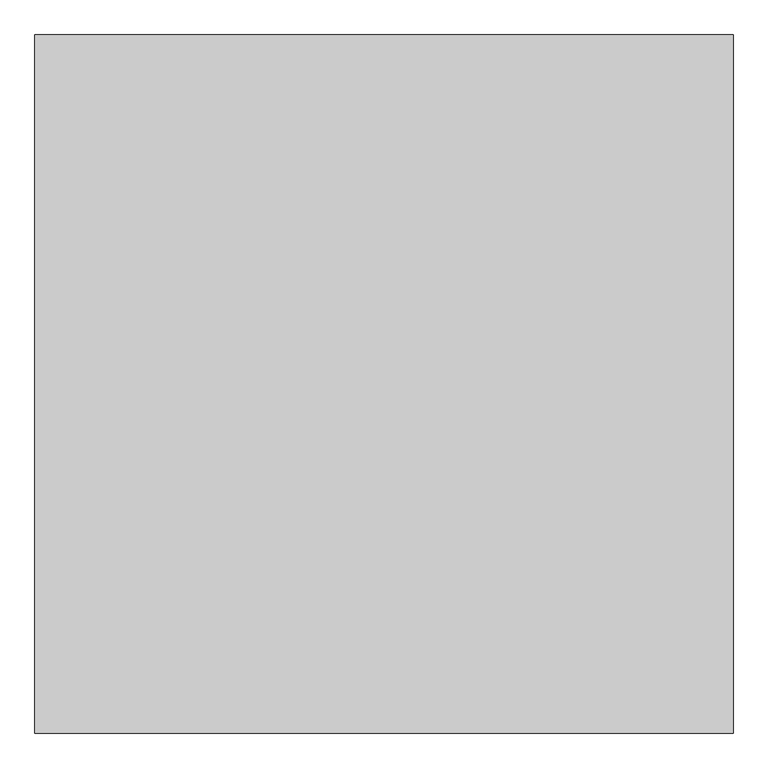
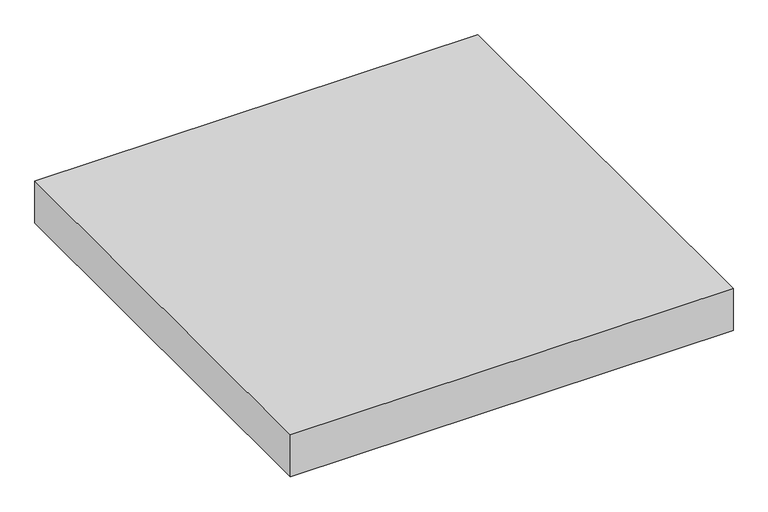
"""IFC4 building model written with IfcOpenShell, lengths in millimetres: proxy geometry, Modelos genéricos 18 : Modelos genéricos 1."""

from ifc_helpers import new_model, si_unit, origin, origin_with_axes, place, context, project, spatial, polyline, outline, extrude, source, transform, mapped, element, save


def generic_models_1e27c4d6(model_context):
    return source(origin(), model_context, "Body", "SweptSolid", [
        extrude(outline(polyline([(-3422.6026359, -3545.712814), (-3422.6026359, -5045.712814), (-4922.6026359, -5045.712814), (-4922.6026359, -3545.712814), (-3422.6026359, -3545.712814)])), origin_with_axes(), (0.0, 0.0, 1.0), 150.0),
    ])


if __name__ == "__main__":
    model = new_model("IFC4")
    model_context = context("Model", 3, world=origin())
    ifc_project = project(units=[si_unit("LENGTHUNIT", "METRE", prefix="MILLI")], contexts=[model_context])
    site = spatial("IfcSite", under=ifc_project)
    building = spatial("IfcBuilding", under=site)
    placement = place(None, origin())
    generic_models_shape = generic_models_1e27c4d6(model_context)
    element("IfcBuildingElementProxy", 1, Name="Modelos genéricos 18 : Modelos genéricos 1", ObjectType="Modelos genéricos 18 : Modelos genéricos 1", at=placement, inside=building, context=model_context, shape_type="MappedRepresentation", body=[
        mapped(generic_models_shape, transform((0.0, 0.0, 0.0), x_axis=(1.0, 0.0, 0.0), y_axis=(0.0, 1.0, 0.0), z_axis=(0.0, 0.0, 1.0))),
    ])
    save(model, "model.ifc")
